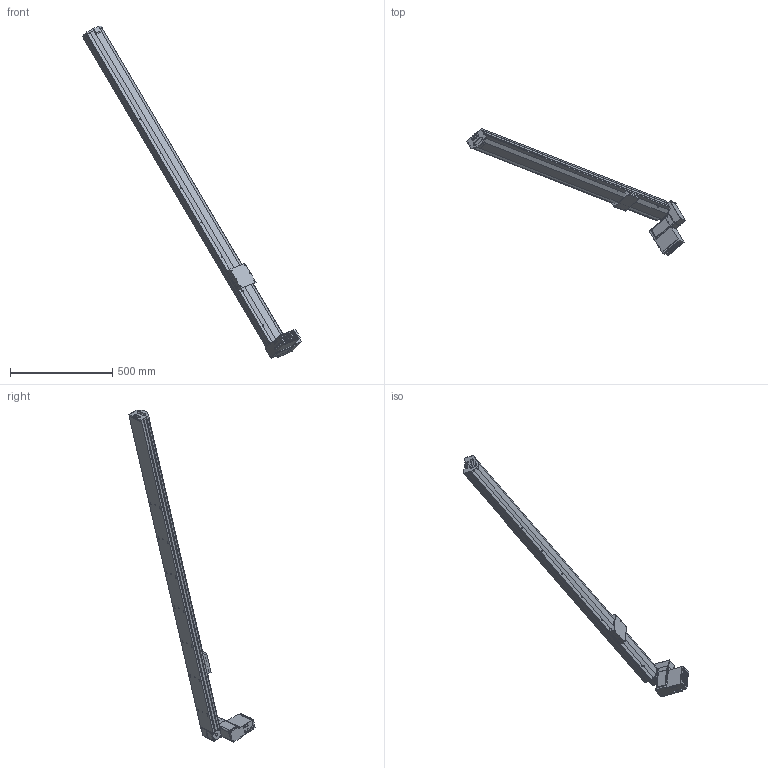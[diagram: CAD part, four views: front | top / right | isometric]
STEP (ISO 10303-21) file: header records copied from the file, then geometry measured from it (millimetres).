
FILE_DESCRIPTION (( 'STEP AP203' ), '1' );
FILE_NAME ('S10 CBH RT S1800.STEP', '2012-10-01T11:52:07', ( '' ), ( '' ), 'SwSTEP 2.0', 'SolidWorks 2010', '' );
FILE_SCHEMA (( 'CONFIG_CONTROL_DESIGN' ));
Length unit declared in the file: millimetre
Products named in the file (9): moteur M3_1; plaque de bout; S10 CBH RT S1800; palette tbh; moteur M3; embout; axe 1800; MOTEUR GMI 61 ; Plaque racord_
Assembly tree (7 placements, depth 3):
  S10 CBH RT S1800
    embout
    axe 1800
    plaque de bout
      Plaque racord_
      moteur M3_1
    palette tbh
    MOTEUR GMI 61 
  moteur M3
Bounding box: 1073.63 x 619.58 x 1625.85 mm (x, y, z)
Volume: 10331809.2 mm3; surface area: 1020559.5 mm2
Topology: 5 solids, 18 shells, 773 faces, 2012 edges, 1264 vertices
Faces by surface type: plane 381, cylinder 283, cone 74, torus 23, bspline 8, sphere 4
Entity records: 26793 total; most frequent: CARTESIAN_POINT 6881, DIRECTION 4027, ORIENTED_EDGE 3776, EDGE_CURVE 1938, AXIS2_PLACEMENT_3D 1390, VERTEX_POINT 1264, VECTOR 1247, LINE 1247
